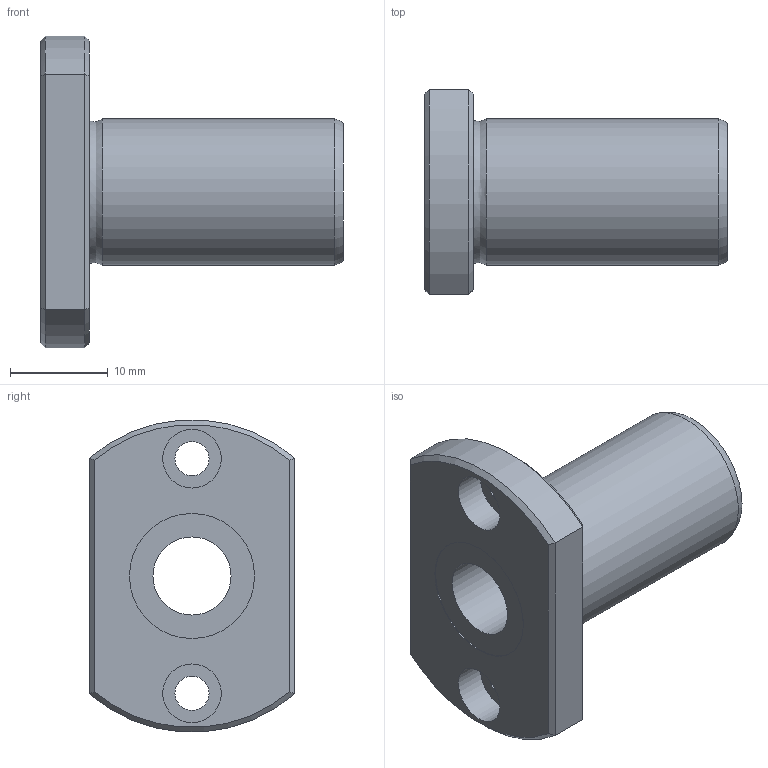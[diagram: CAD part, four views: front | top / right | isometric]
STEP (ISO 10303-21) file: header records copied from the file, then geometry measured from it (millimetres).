
FILE_DESCRIPTION((''),'2;1');
FILE_NAME('D:\製品 (図面)\カタログ用3D\メンテナンスフリー関連\STEP形式\LFT-MF\LFT8MF.stp','2010-06-01T16:06:20',('Tsuchiya'),(''),'Autodesk Inventor 10','Autodesk Inventor 10','');
FILE_SCHEMA(('AUTOMOTIVE_DESIGN { 1 0 10303 214 1 1 1 1 }'));
Length unit declared in the file: millimetre
Products named in the file (1): LFT8MF
Bounding box: 31 x 21 x 31.9 mm (x, y, z)
Volume: 5859.8 mm3; surface area: 3677.8 mm2
Topology: 1 solids, 1 shells, 29 faces, 56 edges, 34 vertices
Faces by surface type: plane 13, cylinder 10, cone 4, torus 1, bspline 1
Full cylindrical faces by diameter (mm): 3.5 x2, 6 x2, 8 x1, 12.8 x2, 15 x1
Entity records: 787 total; most frequent: CARTESIAN_POINT 196, DIRECTION 122, ORIENTED_EDGE 92, AXIS2_PLACEMENT_3D 55, EDGE_LOOP 50, EDGE_CURVE 46, VERTEX_POINT 34, FACE_OUTER_BOUND 29
